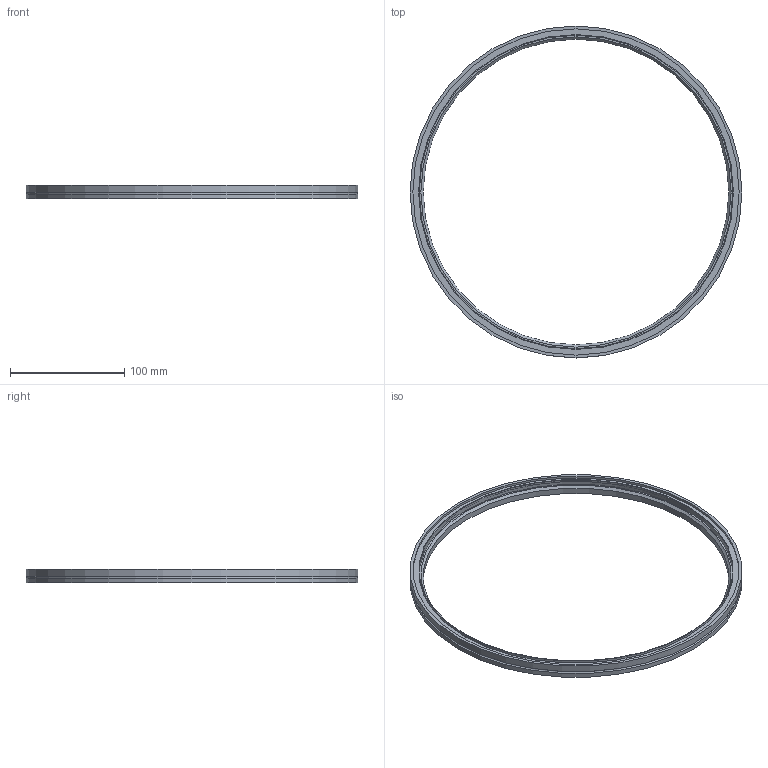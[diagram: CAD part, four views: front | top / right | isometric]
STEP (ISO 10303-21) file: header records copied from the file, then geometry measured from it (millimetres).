
FILE_DESCRIPTION( ( 'Unknown' ), '1' );
FILE_NAME( 'X:/Daten ( aktueller Bestand )/Projekte und Zeichnungen/Solid Edge/STP-Dateien/ISO-K Teile und Zubehör/6515.stp', 'Unknown', ( 'Unknown' ), ( 'Unknown' ), 'PSStep 14.0', 'Unknown', ' ' );
FILE_SCHEMA( ( 'AUTOMOTIVE_DESIGN { 1 0 10303 214 1 1 1 1 }' ) );
Length unit declared in the file: millimetre
Products named in the file (1): 1
Bounding box: 290 x 290 x 12 mm (x, y, z)
Volume: 95834.3 mm3; surface area: 44786.6 mm2
Topology: 1 solids, 1 shells, 13 faces, 21 edges, 13 vertices
Faces by surface type: cylinder 6, plane 5, cone 1, torus 1
Full cylindrical faces by diameter (mm): 267 x1, 273.8 x1, 275 x1, 285 x1, 290 x2
Entity records: 388 total; most frequent: DIRECTION 54, CARTESIAN_POINT 40, AXIS2_PLACEMENT_3D 27, EDGE_LOOP 26, ORIENTED_EDGE 26, FACE_OUTER_BOUND 20, STYLED_ITEM 13, PRESENTATION_STYLE_ASSIGNMENT 13
